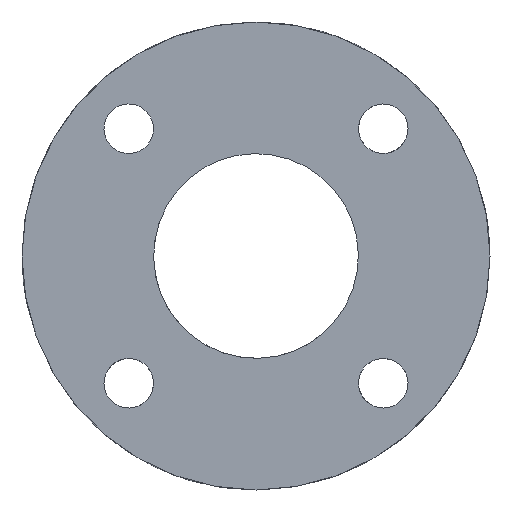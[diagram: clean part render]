
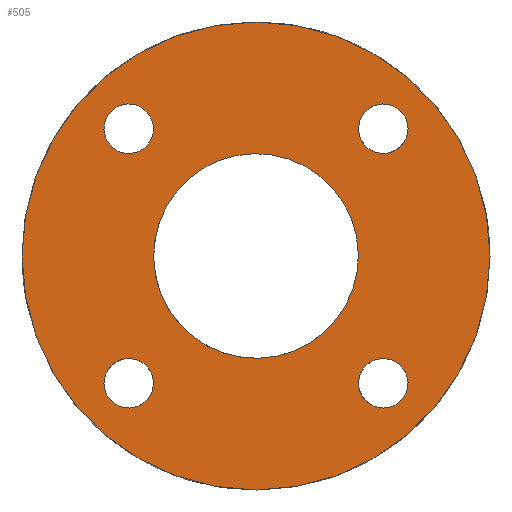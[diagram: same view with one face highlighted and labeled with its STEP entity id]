
A CAD part, left-side view. The second image highlights one B-rep face of the part: STEP entity #505.
In plain terms, the highlighted planar face has unit normal (-1, 0, 0).
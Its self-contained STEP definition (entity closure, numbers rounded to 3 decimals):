
#63=CARTESIAN_POINT('Vertex',(0.,23.458,25.647)) ;
#77=CARTESIAN_POINT('Vertex',(0.,33.111,30.921)) ;
#80=CARTESIAN_POINT('Axis2P3D Location',(0.,28.284,28.284)) ;
#115=CARTESIAN_POINT('Control Point',(0.,33.111,30.921)) ;
#116=CARTESIAN_POINT('Control Point',(0.,32.697,31.679)) ;
#117=CARTESIAN_POINT('Control Point',(0.,32.134,32.356)) ;
#118=CARTESIAN_POINT('Control Point',(0.,31.443,32.913)) ;
#119=CARTESIAN_POINT('Control Point',(0.,29.88,33.725)) ;
#120=CARTESIAN_POINT('Control Point',(0.,28.127,33.885)) ;
#121=CARTESIAN_POINT('Control Point',(0.,27.245,33.79)) ;
#122=CARTESIAN_POINT('Control Point',(0.,25.566,33.26)) ;
#123=CARTESIAN_POINT('Control Point',(0.,24.212,32.134)) ;
#124=CARTESIAN_POINT('Control Point',(0.,23.656,31.443)) ;
#125=CARTESIAN_POINT('Control Point',(0.,22.844,29.88)) ;
#126=CARTESIAN_POINT('Control Point',(0.,22.683,28.127)) ;
#127=CARTESIAN_POINT('Control Point',(0.,22.778,27.245)) ;
#128=CARTESIAN_POINT('Control Point',(0.,23.043,26.406)) ;
#129=CARTESIAN_POINT('Control Point',(0.,23.458,25.647)) ;
#406=CARTESIAN_POINT('Axis2P3D Location',(0.,0.,0.)) ;
#411=CARTESIAN_POINT('Axis2P3D Location',(0.,0.,0.)) ;
#415=CARTESIAN_POINT('Vertex',(0.,-52.,0.)) ;
#417=CARTESIAN_POINT('Vertex',(0.,52.,0.)) ;
#420=CARTESIAN_POINT('Axis2P3D Location',(0.,0.,0.)) ;
#433=CARTESIAN_POINT('Axis2P3D Location',(0.,0.,0.)) ;
#437=CARTESIAN_POINT('Vertex',(0.,-19.965,-10.907)) ;
#439=CARTESIAN_POINT('Vertex',(0.,19.965,10.907)) ;
#442=CARTESIAN_POINT('Axis2P3D Location',(0.,0.,0.)) ;
#451=CARTESIAN_POINT('Axis2P3D Location',(0.,-28.284,28.284)) ;
#455=CARTESIAN_POINT('Vertex',(0.,-30.921,33.111)) ;
#457=CARTESIAN_POINT('Vertex',(0.,-25.647,23.458)) ;
#460=CARTESIAN_POINT('Axis2P3D Location',(0.,-28.284,28.284)) ;
#469=CARTESIAN_POINT('Axis2P3D Location',(0.,-28.284,-28.284)) ;
#473=CARTESIAN_POINT('Vertex',(0.,-33.111,-30.921)) ;
#475=CARTESIAN_POINT('Vertex',(0.,-23.458,-25.647)) ;
#478=CARTESIAN_POINT('Axis2P3D Location',(0.,-28.284,-28.284)) ;
#487=CARTESIAN_POINT('Axis2P3D Location',(0.,28.284,-28.284)) ;
#491=CARTESIAN_POINT('Vertex',(0.,30.921,-33.111)) ;
#493=CARTESIAN_POINT('Vertex',(0.,25.647,-23.458)) ;
#496=CARTESIAN_POINT('Axis2P3D Location',(0.,28.284,-28.284)) ;
#81=DIRECTION('Axis2P3D Direction',(1.,0.,-0.)) ;
#407=DIRECTION('Axis2P3D Direction',(1.,0.,0.)) ;
#408=DIRECTION('Axis2P3D XDirection',(0.,1.,0.)) ;
#412=DIRECTION('Axis2P3D Direction',(1.,0.,0.)) ;
#421=DIRECTION('Axis2P3D Direction',(1.,0.,0.)) ;
#434=DIRECTION('Axis2P3D Direction',(1.,0.,0.)) ;
#443=DIRECTION('Axis2P3D Direction',(1.,0.,0.)) ;
#452=DIRECTION('Axis2P3D Direction',(1.,0.,0.)) ;
#461=DIRECTION('Axis2P3D Direction',(1.,0.,0.)) ;
#470=DIRECTION('Axis2P3D Direction',(1.,0.,0.)) ;
#479=DIRECTION('Axis2P3D Direction',(1.,0.,0.)) ;
#488=DIRECTION('Axis2P3D Direction',(1.,0.,0.)) ;
#497=DIRECTION('Axis2P3D Direction',(1.,0.,0.)) ;
#82=AXIS2_PLACEMENT_3D('Circle Axis2P3D',#80,#81,$) ;
#409=AXIS2_PLACEMENT_3D('Plane Axis2P3D',#406,#407,#408) ;
#413=AXIS2_PLACEMENT_3D('Circle Axis2P3D',#411,#412,$) ;
#422=AXIS2_PLACEMENT_3D('Circle Axis2P3D',#420,#421,$) ;
#435=AXIS2_PLACEMENT_3D('Circle Axis2P3D',#433,#434,$) ;
#444=AXIS2_PLACEMENT_3D('Circle Axis2P3D',#442,#443,$) ;
#453=AXIS2_PLACEMENT_3D('Circle Axis2P3D',#451,#452,$) ;
#462=AXIS2_PLACEMENT_3D('Circle Axis2P3D',#460,#461,$) ;
#471=AXIS2_PLACEMENT_3D('Circle Axis2P3D',#469,#470,$) ;
#480=AXIS2_PLACEMENT_3D('Circle Axis2P3D',#478,#479,$) ;
#489=AXIS2_PLACEMENT_3D('Circle Axis2P3D',#487,#488,$) ;
#498=AXIS2_PLACEMENT_3D('Circle Axis2P3D',#496,#497,$) ;
#426=ORIENTED_EDGE('',*,*,#419,.F.) ;
#427=ORIENTED_EDGE('',*,*,#424,.F.) ;
#430=ORIENTED_EDGE('',*,*,#84,.T.) ;
#431=ORIENTED_EDGE('',*,*,#130,.T.) ;
#448=ORIENTED_EDGE('',*,*,#441,.T.) ;
#449=ORIENTED_EDGE('',*,*,#446,.T.) ;
#466=ORIENTED_EDGE('',*,*,#459,.T.) ;
#467=ORIENTED_EDGE('',*,*,#464,.T.) ;
#484=ORIENTED_EDGE('',*,*,#477,.T.) ;
#485=ORIENTED_EDGE('',*,*,#482,.T.) ;
#502=ORIENTED_EDGE('',*,*,#495,.T.) ;
#503=ORIENTED_EDGE('',*,*,#500,.T.) ;
#432=FACE_BOUND('',#429,.T.) ;
#450=FACE_BOUND('',#447,.T.) ;
#468=FACE_BOUND('',#465,.T.) ;
#486=FACE_BOUND('',#483,.T.) ;
#504=FACE_BOUND('',#501,.T.) ;
#505=ADVANCED_FACE('TTM45',(#428,#432,#450,#468,#486,#504),#410,.F.) ;
#114=B_SPLINE_CURVE_WITH_KNOTS('',5,(#115,#116,#117,#118,#119,#120,#121,#122,#123,#124,#125,#126,#127,#128,#129),.UNSPECIFIED.,.F.,.U.,(6,3,3,3,6),(-8.639,-4.32,0.,4.32,8.639),.UNSPECIFIED.) ;
#83=CIRCLE('generated circle',#82,5.5) ;
#414=CIRCLE('generated circle',#413,52.) ;
#423=CIRCLE('generated circle',#422,52.) ;
#436=CIRCLE('generated circle',#435,22.75) ;
#445=CIRCLE('generated circle',#444,22.75) ;
#454=CIRCLE('generated circle',#453,5.5) ;
#463=CIRCLE('generated circle',#462,5.5) ;
#472=CIRCLE('generated circle',#471,5.5) ;
#481=CIRCLE('generated circle',#480,5.5) ;
#490=CIRCLE('generated circle',#489,5.5) ;
#499=CIRCLE('generated circle',#498,5.5) ;
#84=EDGE_CURVE('',#64,#78,#83,.T.) ;
#130=EDGE_CURVE('',#78,#64,#114,.T.) ;
#419=EDGE_CURVE('',#416,#418,#414,.T.) ;
#424=EDGE_CURVE('',#418,#416,#423,.T.) ;
#441=EDGE_CURVE('',#438,#440,#436,.T.) ;
#446=EDGE_CURVE('',#440,#438,#445,.T.) ;
#459=EDGE_CURVE('',#456,#458,#454,.T.) ;
#464=EDGE_CURVE('',#458,#456,#463,.T.) ;
#477=EDGE_CURVE('',#474,#476,#472,.T.) ;
#482=EDGE_CURVE('',#476,#474,#481,.T.) ;
#495=EDGE_CURVE('',#492,#494,#490,.T.) ;
#500=EDGE_CURVE('',#494,#492,#499,.T.) ;
#425=EDGE_LOOP('',(#426,#427)) ;
#429=EDGE_LOOP('',(#430,#431)) ;
#447=EDGE_LOOP('',(#448,#449)) ;
#465=EDGE_LOOP('',(#466,#467)) ;
#483=EDGE_LOOP('',(#484,#485)) ;
#501=EDGE_LOOP('',(#502,#503)) ;
#428=FACE_OUTER_BOUND('',#425,.T.) ;
#410=PLANE('',#409) ;
#64=VERTEX_POINT('',#63) ;
#78=VERTEX_POINT('',#77) ;
#416=VERTEX_POINT('',#415) ;
#418=VERTEX_POINT('',#417) ;
#438=VERTEX_POINT('',#437) ;
#440=VERTEX_POINT('',#439) ;
#456=VERTEX_POINT('',#455) ;
#458=VERTEX_POINT('',#457) ;
#474=VERTEX_POINT('',#473) ;
#476=VERTEX_POINT('',#475) ;
#492=VERTEX_POINT('',#491) ;
#494=VERTEX_POINT('',#493) ;
